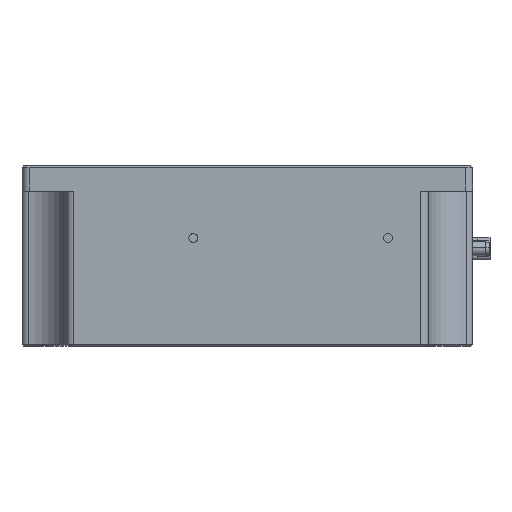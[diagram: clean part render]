
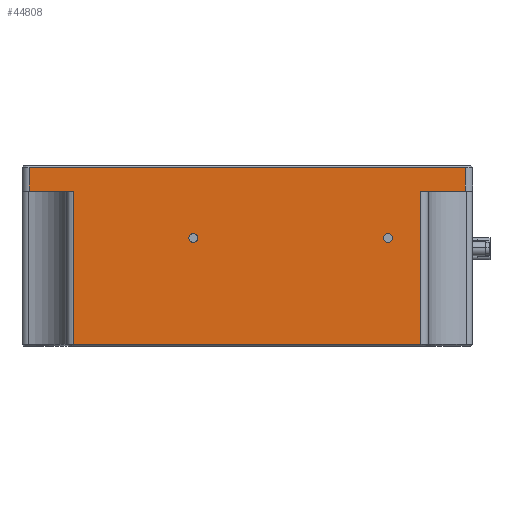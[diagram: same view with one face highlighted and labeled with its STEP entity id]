
A CAD part, left-side view. The second image highlights one B-rep face of the part: STEP entity #44808.
In plain terms, the highlighted planar face has unit normal (-1, 0, 0).
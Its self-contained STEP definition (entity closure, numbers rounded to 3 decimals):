
#912 = CARTESIAN_POINT ( 'NONE',  ( -150., -123., -7. ) ) ;
#1744 = CARTESIAN_POINT ( 'NONE',  ( -150., 0., -7. ) ) ;
#1896 = CARTESIAN_POINT ( 'NONE',  ( -150., -123., -0.5 ) ) ;
#2048 = VERTEX_POINT ( 'NONE', #15283 ) ;
#2431 = EDGE_CURVE ( 'NONE', #15941, #2048, #26001, .T. ) ;
#2783 = LINE ( 'NONE', #27573, #39060 ) ;
#3128 = CARTESIAN_POINT ( 'NONE',  ( -150., -101.5, -20. ) ) ;
#3176 = DIRECTION ( 'NONE',  ( 0., 0., 1. ) ) ;
#3211 = DIRECTION ( 'NONE',  ( 0., 0., 1. ) ) ;
#3436 = DIRECTION ( 'NONE',  ( 0., 0., 1. ) ) ;
#3529 = LINE ( 'NONE', #5626, #11202 ) ;
#3756 = CARTESIAN_POINT ( 'NONE',  ( -150., -101.5, -18.75 ) ) ;
#4391 = CIRCLE ( 'NONE', #5692, 1.25 ) ;
#4908 = DIRECTION ( 'NONE',  ( 0., 0., 1. ) ) ;
#4954 = CARTESIAN_POINT ( 'NONE',  ( -150., -110.639, 0. ) ) ;
#5626 = CARTESIAN_POINT ( 'NONE',  ( -150., 0., -49.5 ) ) ;
#5692 = AXIS2_PLACEMENT_3D ( 'NONE', #26147, #32730, #4908 ) ;
#6033 = CIRCLE ( 'NONE', #41595, 1.25 ) ;
#6327 = ORIENTED_EDGE ( 'NONE', *, *, #43585, .T. ) ;
#6339 = DIRECTION ( 'NONE',  ( 0., -1., 0. ) ) ;
#6912 = CARTESIAN_POINT ( 'NONE',  ( -150., -110.639, -49.5 ) ) ;
#7194 = CARTESIAN_POINT ( 'NONE',  ( -150., -101.5, -21.25 ) ) ;
#9870 = EDGE_CURVE ( 'NONE', #27208, #13136, #14889, .T. ) ;
#9925 = FACE_BOUND ( 'NONE', #44646, .T. ) ;
#10992 = VERTEX_POINT ( 'NONE', #1896 ) ;
#11037 = VECTOR ( 'NONE', #19337, 1000. ) ;
#11202 = VECTOR ( 'NONE', #16375, 1000. ) ;
#11925 = VECTOR ( 'NONE', #15706, 1000. ) ;
#12543 = CARTESIAN_POINT ( 'NONE',  ( -150., -123., 0. ) ) ;
#12572 = EDGE_CURVE ( 'NONE', #36374, #27208, #28438, .T. ) ;
#13136 = VERTEX_POINT ( 'NONE', #912 ) ;
#13281 = DIRECTION ( 'NONE',  ( 0., 0., -1. ) ) ;
#13532 = CARTESIAN_POINT ( 'NONE',  ( -150., -2., -0.5 ) ) ;
#14201 = ORIENTED_EDGE ( 'NONE', *, *, #31555, .T. ) ;
#14889 = LINE ( 'NONE', #16920, #22613 ) ;
#15267 = VERTEX_POINT ( 'NONE', #19074 ) ;
#15283 = CARTESIAN_POINT ( 'NONE',  ( -150., -14.361, -7. ) ) ;
#15461 = AXIS2_PLACEMENT_3D ( 'NONE', #31330, #31017, #3211 ) ;
#15706 = DIRECTION ( 'NONE',  ( 0., 0., 1. ) ) ;
#15770 = EDGE_CURVE ( 'NONE', #15267, #36374, #3529, .T. ) ;
#15941 = VERTEX_POINT ( 'NONE', #23748 ) ;
#16094 = LINE ( 'NONE', #27100, #36451 ) ;
#16330 = EDGE_CURVE ( 'NONE', #2048, #15267, #16094, .T. ) ;
#16375 = DIRECTION ( 'NONE',  ( 0., -1., 0. ) ) ;
#16920 = CARTESIAN_POINT ( 'NONE',  ( -150., 0., -7. ) ) ;
#17099 = ORIENTED_EDGE ( 'NONE', *, *, #38382, .F. ) ;
#17443 = CARTESIAN_POINT ( 'NONE',  ( -150., -101.5, -20. ) ) ;
#18149 = DIRECTION ( 'NONE',  ( 0., 0., -1. ) ) ;
#18493 = EDGE_LOOP ( 'NONE', ( #14201, #40239, #6327, #25320, #41177, #24637, #26924, #41438 ) ) ;
#18619 = ORIENTED_EDGE ( 'NONE', *, *, #33219, .F. ) ;
#18679 = VERTEX_POINT ( 'NONE', #28226 ) ;
#18717 = EDGE_CURVE ( 'NONE', #28377, #41586, #6033, .T. ) ;
#19074 = CARTESIAN_POINT ( 'NONE',  ( -150., -14.361, -49.5 ) ) ;
#19337 = DIRECTION ( 'NONE',  ( 0., 0., 1. ) ) ;
#20544 = AXIS2_PLACEMENT_3D ( 'NONE', #21980, #32278, #18149 ) ;
#20680 = DIRECTION ( 'NONE',  ( 0., 1., 0. ) ) ;
#21100 = DIRECTION ( 'NONE',  ( -1., 0., 0. ) ) ;
#21268 = VERTEX_POINT ( 'NONE', #13532 ) ;
#21980 = CARTESIAN_POINT ( 'NONE',  ( -150., 0., 0. ) ) ;
#22613 = VECTOR ( 'NONE', #6339, 1000. ) ;
#23748 = CARTESIAN_POINT ( 'NONE',  ( -150., -2., -7. ) ) ;
#24101 = ORIENTED_EDGE ( 'NONE', *, *, #18717, .F. ) ;
#24124 = CARTESIAN_POINT ( 'NONE',  ( -150., -47.5, -21.25 ) ) ;
#24324 = DIRECTION ( 'NONE',  ( 0., 0., -1. ) ) ;
#24637 = ORIENTED_EDGE ( 'NONE', *, *, #15770, .T. ) ;
#25282 = EDGE_LOOP ( 'NONE', ( #24101, #30649 ) ) ;
#25320 = ORIENTED_EDGE ( 'NONE', *, *, #2431, .T. ) ;
#26001 = LINE ( 'NONE', #1744, #30410 ) ;
#26132 = DIRECTION ( 'NONE',  ( 0., -1., 0. ) ) ;
#26147 = CARTESIAN_POINT ( 'NONE',  ( -150., -47.5, -20. ) ) ;
#26558 = EDGE_CURVE ( 'NONE', #10992, #21268, #39733, .T. ) ;
#26739 = AXIS2_PLACEMENT_3D ( 'NONE', #3128, #21100, #3436 ) ;
#26924 = ORIENTED_EDGE ( 'NONE', *, *, #12572, .T. ) ;
#26997 = EDGE_CURVE ( 'NONE', #41586, #28377, #40790, .T. ) ;
#27100 = CARTESIAN_POINT ( 'NONE',  ( -150., -14.361, 0. ) ) ;
#27208 = VERTEX_POINT ( 'NONE', #32912 ) ;
#27573 = CARTESIAN_POINT ( 'NONE',  ( -150., -2., 0. ) ) ;
#27909 = DIRECTION ( 'NONE',  ( -1., 0., 0. ) ) ;
#28226 = CARTESIAN_POINT ( 'NONE',  ( -150., -47.5, -18.75 ) ) ;
#28377 = VERTEX_POINT ( 'NONE', #3756 ) ;
#28438 = LINE ( 'NONE', #4954, #11925 ) ;
#29726 = FACE_BOUND ( 'NONE', #25282, .T. ) ;
#30410 = VECTOR ( 'NONE', #26132, 1000. ) ;
#30649 = ORIENTED_EDGE ( 'NONE', *, *, #26997, .F. ) ;
#31017 = DIRECTION ( 'NONE',  ( -1., 0., 0. ) ) ;
#31218 = CIRCLE ( 'NONE', #15461, 1.25 ) ;
#31330 = CARTESIAN_POINT ( 'NONE',  ( -150., -47.5, -20. ) ) ;
#31555 = EDGE_CURVE ( 'NONE', #13136, #10992, #35766, .T. ) ;
#32278 = DIRECTION ( 'NONE',  ( 1., 0., 0. ) ) ;
#32730 = DIRECTION ( 'NONE',  ( -1., 0., 0. ) ) ;
#32912 = CARTESIAN_POINT ( 'NONE',  ( -150., -110.639, -7. ) ) ;
#33219 = EDGE_CURVE ( 'NONE', #18679, #42684, #4391, .T. ) ;
#35766 = LINE ( 'NONE', #12543, #11037 ) ;
#35805 = PLANE ( 'NONE',  #20544 ) ;
#36374 = VERTEX_POINT ( 'NONE', #6912 ) ;
#36451 = VECTOR ( 'NONE', #24324, 1000. ) ;
#38382 = EDGE_CURVE ( 'NONE', #42684, #18679, #31218, .T. ) ;
#39060 = VECTOR ( 'NONE', #13281, 1000. ) ;
#39567 = FACE_OUTER_BOUND ( 'NONE', #18493, .T. ) ;
#39733 = LINE ( 'NONE', #41417, #44674 ) ;
#40239 = ORIENTED_EDGE ( 'NONE', *, *, #26558, .T. ) ;
#40790 = CIRCLE ( 'NONE', #26739, 1.25 ) ;
#41177 = ORIENTED_EDGE ( 'NONE', *, *, #16330, .T. ) ;
#41417 = CARTESIAN_POINT ( 'NONE',  ( -150., -2., -0.5 ) ) ;
#41438 = ORIENTED_EDGE ( 'NONE', *, *, #9870, .T. ) ;
#41586 = VERTEX_POINT ( 'NONE', #7194 ) ;
#41595 = AXIS2_PLACEMENT_3D ( 'NONE', #17443, #27909, #3176 ) ;
#42684 = VERTEX_POINT ( 'NONE', #24124 ) ;
#43585 = EDGE_CURVE ( 'NONE', #21268, #15941, #2783, .T. ) ;
#44646 = EDGE_LOOP ( 'NONE', ( #18619, #17099 ) ) ;
#44674 = VECTOR ( 'NONE', #20680, 1000. ) ;
#44808 = ADVANCED_FACE ( 'NONE', ( #29726, #9925, #39567 ), #35805, .F. ) ;
